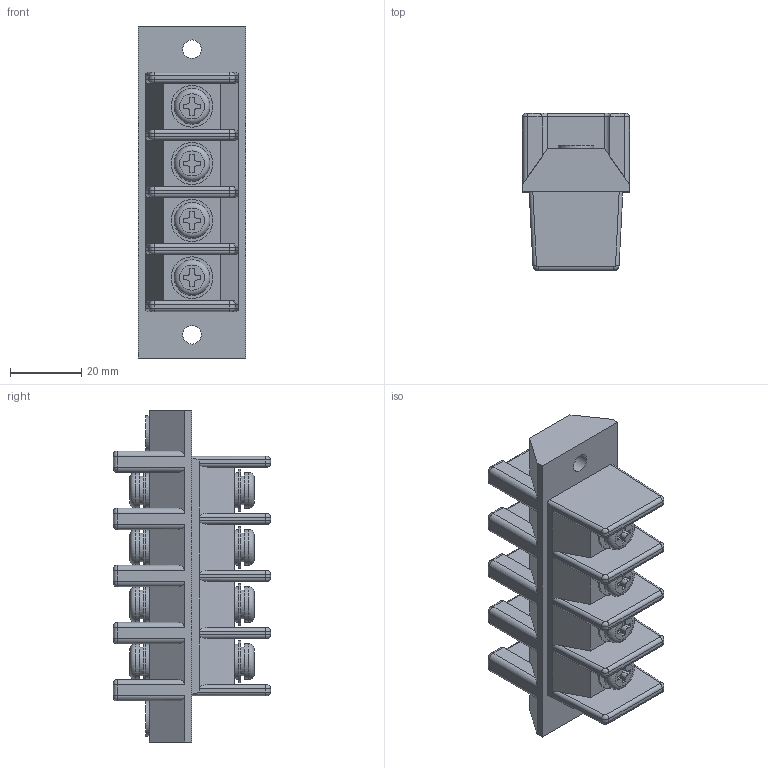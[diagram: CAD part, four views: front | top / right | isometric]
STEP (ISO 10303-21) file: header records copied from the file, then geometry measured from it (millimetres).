
FILE_DESCRIPTION(/* description */ ('Alibre Inc.'),/* implementation_level */ '2;1');
FILE_NAME(/* name */ 'export-9920EBF0-2A41-43D0-8C73-BF1EF6350D0A',/* time_stamp */ '2025-02-21T11:54:17+09:00',/* author */ (''),/* organization */ (''),/* preprocessor_version */ 'ST-DEVELOPER v17',/* originating_system */ 'Alibre',/* authorisation */ '');
FILE_SCHEMA (('CONFIG_CONTROL_DESIGN'));
Length unit declared in the file: millimetre
Bounding box: 30 x 44 x 93 mm (x, y, z)
Volume: 58893.5 mm3; surface area: 20656.2 mm2
Topology: 1 solids, 13 shells, 559 faces, 1292 edges, 802 vertices
Faces by surface type: plane 259, cylinder 216, torus 68, cone 16
Full cylindrical faces by diameter (mm): 4.4 x8, 4.6 x8, 5 x12, 5.2 x2, 8 x8, 9.9 x10, 10 x8, 11.7 x8
Entity records: 14874 total; most frequent: CARTESIAN_POINT 2721, ORIENTED_EDGE 2388, DIRECTION 2365, EDGE_CURVE 1194, AXIS2_PLACEMENT_3D 1005, VERTEX_POINT 792, EDGE_LOOP 710, FACE_BOUND 710
